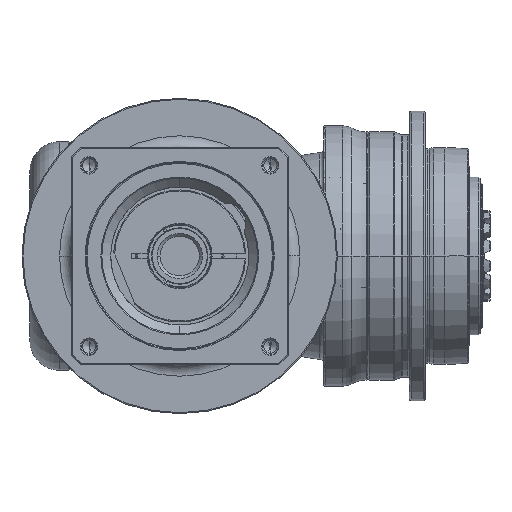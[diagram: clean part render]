
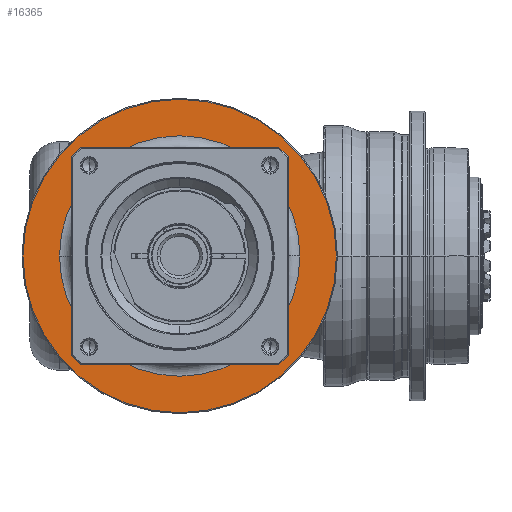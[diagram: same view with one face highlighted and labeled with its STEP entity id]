
A CAD part, front view. The second image highlights one B-rep face of the part: STEP entity #16365.
In plain terms, the highlighted planar face has unit normal (0, -1, 0) as drawn and (1, 0, 0) by its records, which use the part's own axes.
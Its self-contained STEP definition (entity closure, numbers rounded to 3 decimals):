
#15844=CARTESIAN_POINT('',(-9.,0.,0.));
#15845=DIRECTION('',(-1.,0.,0.));
#15846=DIRECTION('',(0.,-1.,0.));
#15847=AXIS2_PLACEMENT_3D('',#15844,#15845,#15846);
#15849=CARTESIAN_POINT('',(-9.,0.,0.));
#15850=DIRECTION('',(-1.,0.,0.));
#15851=DIRECTION('',(0.,1.,0.));
#15852=AXIS2_PLACEMENT_3D('',#15849,#15850,#15851);
#15854=CARTESIAN_POINT('',(-9.,0.,0.));
#15855=DIRECTION('',(-1.,0.,0.));
#15856=DIRECTION('',(0.,-1.,0.));
#15857=AXIS2_PLACEMENT_3D('',#15854,#15855,#15856);
#15859=CARTESIAN_POINT('',(-9.,0.,0.));
#15860=DIRECTION('',(-1.,0.,0.));
#15861=DIRECTION('',(0.,1.,0.));
#15862=AXIS2_PLACEMENT_3D('',#15859,#15860,#15861);
#15928=CARTESIAN_POINT('',(-9.,-79.5,0.));
#15929=CARTESIAN_POINT('',(-9.,79.5,0.));
#15930=VERTEX_POINT('',#15928);
#15931=VERTEX_POINT('',#15929);
#15952=CARTESIAN_POINT('',(-9.,-61.,0.));
#15953=CARTESIAN_POINT('',(-9.,61.,0.));
#15954=VERTEX_POINT('',#15952);
#15955=VERTEX_POINT('',#15953);
#16350=CARTESIAN_POINT('',(-9.,0.,0.));
#16351=DIRECTION('',(1.,0.,0.));
#16352=DIRECTION('',(0.,-1.,0.));
#16353=AXIS2_PLACEMENT_3D('',#16350,#16351,#16352);
#16354=PLANE('',#16353);
#16355=ORIENTED_EDGE('',*,*,#16291,.T.);
#16356=ORIENTED_EDGE('',*,*,#16306,.T.);
#16357=EDGE_LOOP('',(#16355,#16356));
#16358=FACE_OUTER_BOUND('',#16357,.F.);
#16360=ORIENTED_EDGE('',*,*,#16359,.F.);
#16362=ORIENTED_EDGE('',*,*,#16361,.F.);
#16363=EDGE_LOOP('',(#16360,#16362));
#16364=FACE_BOUND('',#16363,.F.);
#16365=ADVANCED_FACE('',(#16358,#16364),#16354,.T.);
#15848=CIRCLE('',#15847,61.);
#15853=CIRCLE('',#15852,61.);
#15858=CIRCLE('',#15857,79.5);
#15863=CIRCLE('',#15862,79.5);
#16291=EDGE_CURVE('',#15930,#15931,#15858,.T.);
#16306=EDGE_CURVE('',#15931,#15930,#15863,.T.);
#16359=EDGE_CURVE('',#15954,#15955,#15848,.T.);
#16361=EDGE_CURVE('',#15955,#15954,#15853,.T.);
